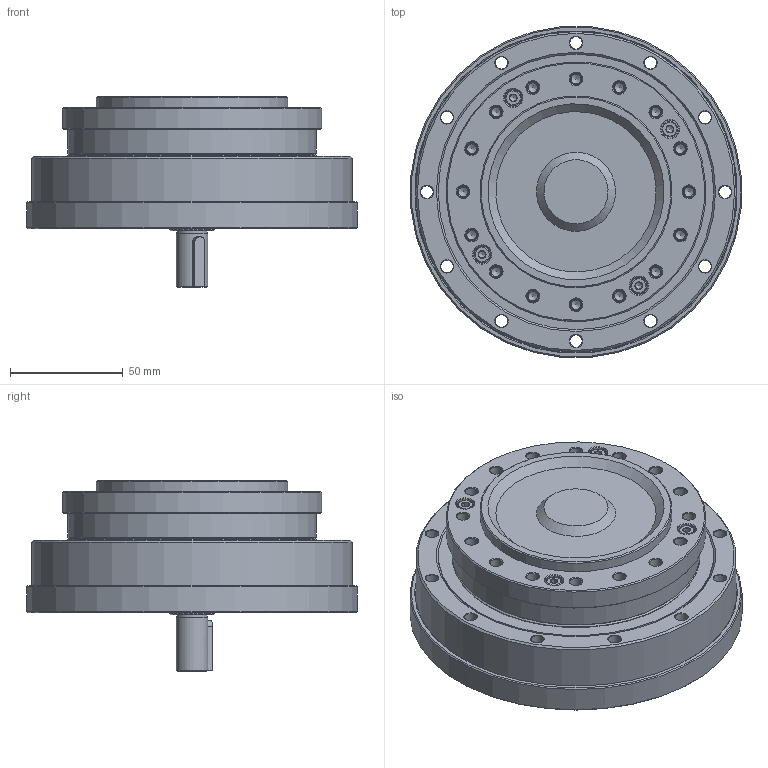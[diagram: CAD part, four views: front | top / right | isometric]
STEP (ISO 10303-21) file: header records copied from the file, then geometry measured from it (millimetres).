
FILE_DESCRIPTION(/* description */ (''),/* implementation_level */ '2;1');
FILE_NAME(/* name */ 'LHT-32-XX-U-IV.stp',/* time_stamp */ '2023-07-29T10:57:54+08:00',/* author */ (''),/* organization */ (''),/* preprocessor_version */ 'ST-DEVELOPER v16.7',/* originating_system */ 'SIEMENS PLM Software NX 12.0',/* authorisation */ '');
FILE_SCHEMA (('AUTOMOTIVE_DESIGN { 1 0 10303 214 3 1 1 1 }'));
Length unit declared in the file: millimetre
Products named in the file (21): EB608012-32KC-46; EB608012-32KC-01; TC-110x122x6; GB-T276_60000_2Z-1994,6004_2Z; GB-T276_60000_2Z-1994,61902_2Z; LHT-32-XX-IV-带键; LHT-32-00-IV上壳体; LHT-32-00-IV下壳体; SC-20x35x5; C型平键5x5x22; GB-T70.1-2000,M4x20; 内六角平圆头螺钉M4x10; 内六角平圆头螺钉M4x12; O-120x1.5; O-90x1; GB-T70.1-2000,M4x16; 柔轮LHT-32; 刚轮LHT-32; EB608012-32KC; 交叉轴承LHT-32; LHT-32-XX-U-IV
Assembly tree (32 placements, depth 3):
  LHT-32-XX-U-IV
    交叉轴承LHT-32
      TC-110x122x6
    刚轮LHT-32
    柔轮LHT-32
    EB608012-32KC
      EB608012-32KC-01
      EB608012-32KC-46
    GB-T70.1-2000,M4x16  x4
    O-90x1
    O-120x1.5
    内六角平圆头螺钉M4x12  x4
    内六角平圆头螺钉M4x10  x4
    GB-T70.1-2000,M4x20  x4
    C型平键5x5x22
    SC-20x35x5
    LHT-32-00-IV下壳体
    LHT-32-00-IV上壳体
    LHT-32-XX-IV-带键
    GB-T276_60000_2Z-1994,61902_2Z
    GB-T276_60000_2Z-1994,6004_2Z
Bounding box: 146.44 x 146.44 x 84.5 mm (x, y, z)
Volume: 521979 mm3; surface area: 276514.7 mm2
Topology: 81 solids, 81 shells, 1371 faces, 3068 edges, 1851 vertices
Faces by surface type: cone 473, plane 405, cylinder 325, torus 122, sphere 42, revolution 2, bspline 2
Full cylindrical faces by diameter (mm): 3.3 x16, 3.838 x16, 4.2 x28, 4.5 x24, 5.5 x68, 7 x16, 8 x16, 10 x6, 13.5 x1, 14 x1, 14.5 x1, 15 x2, 18 x1, 19 x1, 19.334 x2, 19.5 x1, 20 x4, 21.066 x2, 23.666 x2, 25 x1, 26 x1, 27.334 x2, 28 x2, 30.266 x2, 34.666 x2, 35 x2, 42 x3, 44.2 x1, 55 x1, 58.5 x1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
Entity records: 30705 total; most frequent: CARTESIAN_POINT 9087, DIRECTION 4591, ORIENTED_EDGE 2912, AXIS2_PLACEMENT_3D 2195, EDGE_LOOP 1932, FACE_BOUND 1768, EDGE_CURVE 1456, VERTEX_POINT 1305
